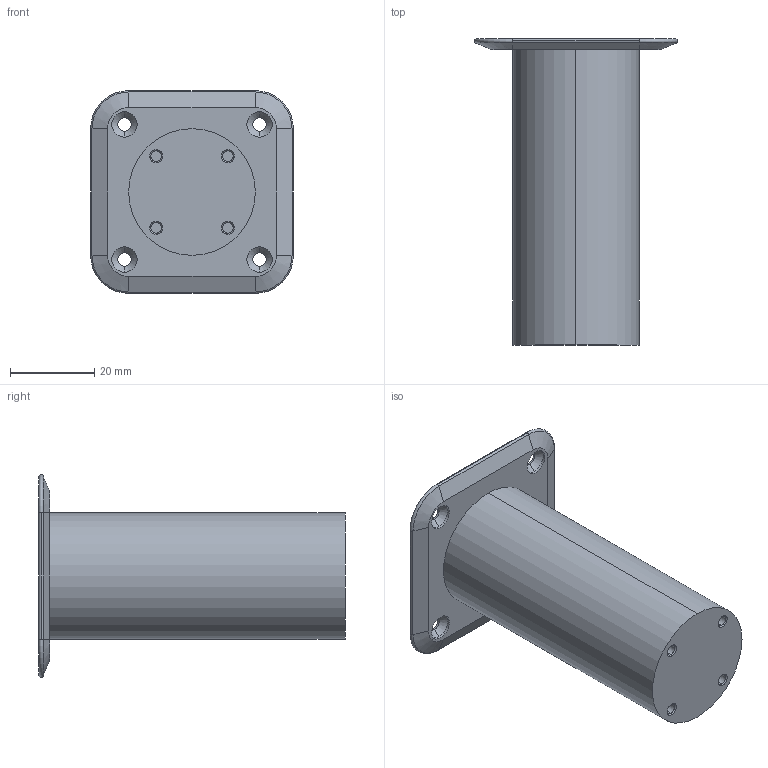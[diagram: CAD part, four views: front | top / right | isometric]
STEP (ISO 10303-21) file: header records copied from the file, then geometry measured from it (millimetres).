
FILE_DESCRIPTION (( 'STEP AP203' ), '1' );
FILE_NAME ('晶眻挍參.STEP', '2026-09-24T08:45:48', ( '' ), ( '' ), 'SwSTEP 2.0', 'SolidWorks 2016', '' );
FILE_SCHEMA (( 'CONFIG_CONTROL_DESIGN' ));
Length unit declared in the file: millimetre
Products named in the file (1): 晶眻挍參
Bounding box: 48 x 72.5 x 48 mm (x, y, z)
Volume: 17199.6 mm3; surface area: 16790.9 mm2
Topology: 1 solids, 1 shells, 72 faces, 160 edges, 96 vertices
Faces by surface type: cylinder 36, cone 20, plane 12, torus 4
Entity records: 2093 total; most frequent: DIRECTION 398, CARTESIAN_POINT 329, ORIENTED_EDGE 320, AXIS2_PLACEMENT_3D 165, EDGE_CURVE 160, VERTEX_POINT 96, CIRCLE 92, EDGE_LOOP 86
